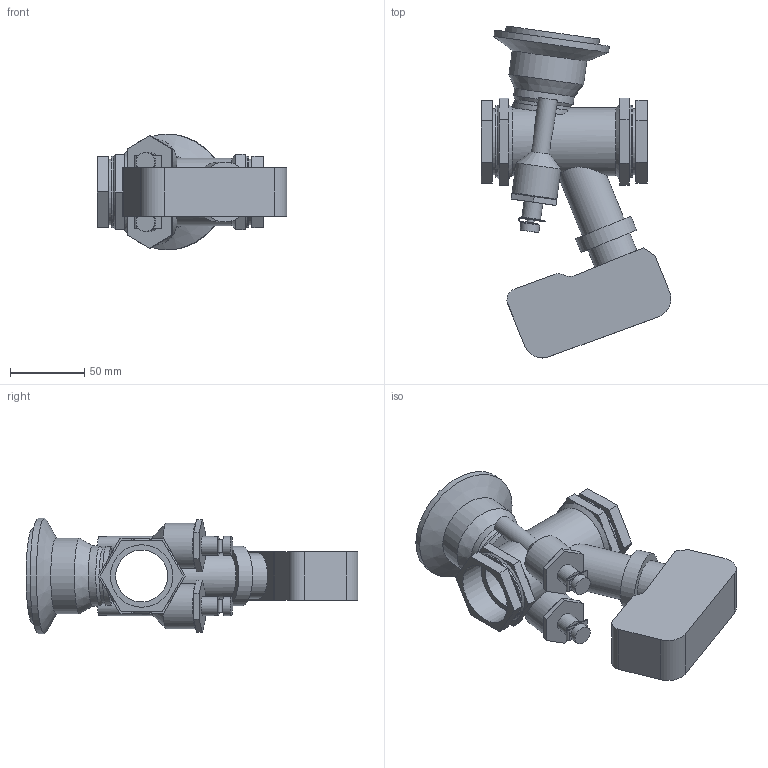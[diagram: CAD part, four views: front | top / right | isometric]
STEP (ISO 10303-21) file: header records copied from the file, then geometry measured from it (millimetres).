
FILE_DESCRIPTION(/* description */ ('VIC BALANCING AND CONTROL VALVE SERIES 7CP (FPT)-TA SLIDER 160 PLUS','CAx-IF Rec.Pracs.---Representation and Presentation of Product Manufacturing Information (PMI)---4.0---2014-10-13'),/* implementation_level */ '2;1');
FILE_NAME(/* name */ 'C:\Users\Vjadhav\AppData\Roaming\Autodesk\ApplicationPlugins\Victaulic.Temp\A633\Victaulic_IPS_Valve Balancing Pressure Independent_TA Series 7CP (FPT)_Slider 160 Plus_1.25 (32).stp',/* time_stamp */ '2021-09-14T20:04:27+06:00',/* author */ ('Vjadhav'),/* organization */ ('Victaulic'),/* preprocessor_version */ 'ST-DEVELOPER v17.2',/* originating_system */ 'Autodesk Inventor 2019',/* authorisation */ '');
FILE_SCHEMA (('AP242_MANAGED_MODEL_BASED_3D_ENGINEERING_MIM_LF { 1 0 10303 442 1 1 4 }'));
Length unit declared in the file: inch
Products named in the file (2): 7CP_Slider 160 Plus-01.25; 7CP-01.25
Assembly tree (1 placements, depth 2):
  7CP_Slider 160 Plus-01.25
    7CP-01.25
Bounding box: 128.01 x 223.77 x 77.98 mm (x, y, z)
Volume: 423924.8 mm3; surface area: 90012.2 mm2
Topology: 1 solids, 1 shells, 175 faces, 447 edges, 298 vertices
Faces by surface type: plane 118, cylinder 47, cone 10
Full cylindrical faces by diameter (mm): 5.08 x6, 12.7 x8, 30.48 x4, 35.052 x2, 40.232 x1, 40.64 x1, 42.164 x3, 44.45 x2, 45.72 x1, 48.26 x2, 50.8 x1, 63.5 x1, 77.978 x1
Entity records: 5899 total; most frequent: CARTESIAN_POINT 1195, DIRECTION 960, ORIENTED_EDGE 894, EDGE_CURVE 447, AXIS2_PLACEMENT_3D 355, VERTEX_POINT 298, LINE 250, VECTOR 250
